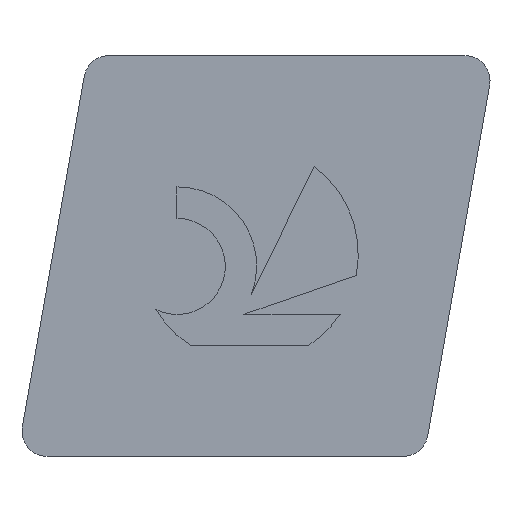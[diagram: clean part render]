
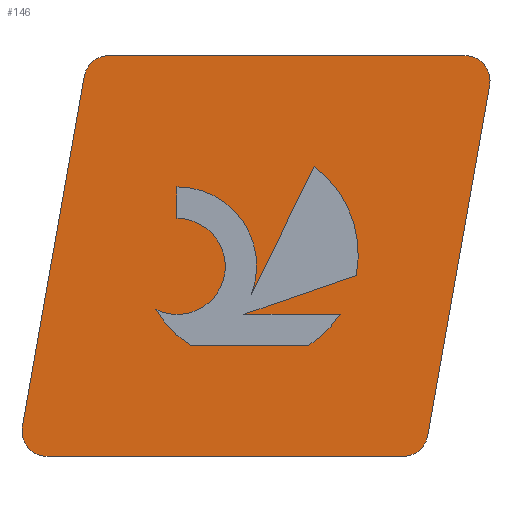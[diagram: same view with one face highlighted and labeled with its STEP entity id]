
A CAD part, top view. The second image highlights one B-rep face of the part: STEP entity #146.
In plain terms, the highlighted planar face has unit normal (0, 0, 1).
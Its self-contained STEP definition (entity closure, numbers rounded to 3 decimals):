
#144=EDGE_CURVE('',#324,#224,#397,.T.);
#146=ADVANCED_FACE('',(#399,#400),#401,.T.);
#148=EDGE_CURVE('',#158,#328,#403,.T.);
#156=VERTEX_POINT('',#412);
#158=VERTEX_POINT('',#414);
#162=EDGE_CURVE('',#304,#342,#418,.T.);
#168=VERTEX_POINT('',#425);
#170=EDGE_CURVE('',#296,#294,#427,.T.);
#176=VERTEX_POINT('',#433);
#186=EDGE_CURVE('',#344,#368,#445,.T.);
#192=EDGE_CURVE('',#338,#362,#451,.T.);
#194=VERTEX_POINT('',#453);
#224=VERTEX_POINT('',#486);
#226=EDGE_CURVE('',#362,#344,#488,.T.);
#228=EDGE_CURVE('',#346,#304,#490,.T.);
#238=EDGE_CURVE('',#336,#346,#502,.T.);
#242=EDGE_CURVE('',#194,#296,#506,.T.);
#244=VERTEX_POINT('',#508);
#258=EDGE_CURVE('',#294,#176,#523,.T.);
#276=EDGE_CURVE('',#156,#158,#543,.T.);
#294=VERTEX_POINT('',#563);
#296=VERTEX_POINT('',#565);
#300=EDGE_CURVE('',#342,#324,#569,.T.);
#304=VERTEX_POINT('',#574);
#320=EDGE_CURVE('',#168,#156,#591,.T.);
#322=EDGE_CURVE('',#328,#194,#593,.T.);
#324=VERTEX_POINT('',#595);
#328=VERTEX_POINT('',#600);
#336=VERTEX_POINT('',#608);
#338=VERTEX_POINT('',#610);
#342=VERTEX_POINT('',#615);
#344=VERTEX_POINT('',#617);
#346=VERTEX_POINT('',#619);
#348=EDGE_CURVE('',#368,#244,#621,.T.);
#350=EDGE_CURVE('',#224,#338,#623,.T.);
#356=EDGE_CURVE('',#244,#336,#630,.T.);
#360=EDGE_CURVE('',#176,#168,#634,.T.);
#362=VERTEX_POINT('',#636);
#368=VERTEX_POINT('',#642);
#397=LINE('',#663,#664);
#399=FACE_BOUND('',#666,.T.);
#400=FACE_OUTER_BOUND('',#667,.T.);
#401=PLANE('',#668);
#403=CIRCLE('',#671,0.397);
#412=CARTESIAN_POINT('',(7.095,6.35,0.0));
#414=CARTESIAN_POINT('',(1.453,6.35,0.0));
#418=LINE('',#691,#692);
#425=CARTESIAN_POINT('',(7.485,5.884,0.0));
#427=LINE('',#704,#705);
#433=CARTESIAN_POINT('',(6.506,0.328,0.0));
#445=LINE('',#732,#733);
#451=CIRCLE('',#744,0.761);
#453=CARTESIAN_POINT('',(0.082,0.466,0.0));
#486=CARTESIAN_POINT('',(2.741,1.76,0.0));
#488=CIRCLE('',#789,0.761);
#490=LINE('',#792,#793);
#502=CIRCLE('',#809,1.724);
#506=CIRCLE('',#816,0.397);
#508=CARTESIAN_POINT('',(3.71,2.568,0.0));
#523=CIRCLE('',#839,0.397);
#543=LINE('',#867,#868);
#563=CARTESIAN_POINT('',(6.115,0.0,0.0));
#565=CARTESIAN_POINT('',(0.473,0.0,0.0));
#569=CIRCLE('',#902,1.724);
#574=CARTESIAN_POINT('',(3.593,2.25,0.0));
#591=CIRCLE('',#932,0.397);
#593=LINE('',#935,#936);
#595=CARTESIAN_POINT('',(4.62,1.76,0.0));
#600=CARTESIAN_POINT('',(1.062,6.022,0.0));
#608=CARTESIAN_POINT('',(4.707,4.59,0.0));
#610=CARTESIAN_POINT('',(2.196,2.329,0.0));
#615=CARTESIAN_POINT('',(5.116,2.25,0.0));
#617=CARTESIAN_POINT('',(2.532,3.77,0.0));
#619=CARTESIAN_POINT('',(5.371,2.868,0.0));
#621=CIRCLE('',#968,1.252);
#623=CIRCLE('',#971,1.724);
#630=LINE('',#979,#980);
#634=LINE('',#985,#986);
#636=CARTESIAN_POINT('',(2.877,3.69,0.0));
#642=CARTESIAN_POINT('',(2.532,4.27,0.0));
#663=CARTESIAN_POINT('',(3.263,1.76,0.0));
#664=VECTOR('',#1023,1.0);
#666=EDGE_LOOP('',(#1025,#1026,#1027,#1028,#1029,#1030,#1031,#1032,#1033,#1034,#1035));
#667=EDGE_LOOP('',(#1036,#1037,#1038,#1039,#1040,#1041,#1042,#1043));
#668=AXIS2_PLACEMENT_3D('',#1044,#1045,#1046);
#671=AXIS2_PLACEMENT_3D('',#1047,#1048,#1049);
#691=CARTESIAN_POINT('',(4.45,2.25,0.0));
#692=VECTOR('',#1060,1.0);
#704=CARTESIAN_POINT('',(0.473,0.0,0.0));
#705=VECTOR('',#1070,1.0);
#732=CARTESIAN_POINT('',(2.532,3.723,0.0));
#733=VECTOR('',#1091,1.0);
#744=AXIS2_PLACEMENT_3D('',#1094,#1095,#1096);
#789=AXIS2_PLACEMENT_3D('',#1131,#1132,#1133);
#792=CARTESIAN_POINT('',(3.822,2.33,0.0));
#793=VECTOR('',#1134,1.0);
#809=AXIS2_PLACEMENT_3D('',#1162,#1163,#1164);
#816=AXIS2_PLACEMENT_3D('',#1166,#1167,#1168);
#839=AXIS2_PLACEMENT_3D('',#1182,#1183,#1184);
#867=CARTESIAN_POINT('',(7.095,6.35,0.0));
#868=VECTOR('',#1207,1.0);
#902=AXIS2_PLACEMENT_3D('',#1230,#1231,#1232);
#932=AXIS2_PLACEMENT_3D('',#1255,#1256,#1257);
#935=CARTESIAN_POINT('',(1.062,6.022,0.0));
#936=VECTOR('',#1258,1.0);
#968=AXIS2_PLACEMENT_3D('',#1279,#1280,#1281);
#971=AXIS2_PLACEMENT_3D('',#1282,#1283,#1284);
#979=CARTESIAN_POINT('',(4.336,3.838,0.0));
#980=VECTOR('',#1293,1.0);
#985=CARTESIAN_POINT('',(6.506,0.328,0.0));
#986=VECTOR('',#1294,1.0);
#1023=DIRECTION('',(-1.0,0.0,0.0));
#1025=ORIENTED_EDGE('',*,*,#186,.T.);
#1026=ORIENTED_EDGE('',*,*,#348,.T.);
#1027=ORIENTED_EDGE('',*,*,#356,.T.);
#1028=ORIENTED_EDGE('',*,*,#238,.T.);
#1029=ORIENTED_EDGE('',*,*,#228,.T.);
#1030=ORIENTED_EDGE('',*,*,#162,.T.);
#1031=ORIENTED_EDGE('',*,*,#300,.T.);
#1032=ORIENTED_EDGE('',*,*,#144,.T.);
#1033=ORIENTED_EDGE('',*,*,#350,.T.);
#1034=ORIENTED_EDGE('',*,*,#192,.T.);
#1035=ORIENTED_EDGE('',*,*,#226,.T.);
#1036=ORIENTED_EDGE('',*,*,#170,.T.);
#1037=ORIENTED_EDGE('',*,*,#258,.T.);
#1038=ORIENTED_EDGE('',*,*,#360,.T.);
#1039=ORIENTED_EDGE('',*,*,#320,.T.);
#1040=ORIENTED_EDGE('',*,*,#276,.T.);
#1041=ORIENTED_EDGE('',*,*,#148,.T.);
#1042=ORIENTED_EDGE('',*,*,#322,.T.);
#1043=ORIENTED_EDGE('',*,*,#242,.T.);
#1044=CARTESIAN_POINT('',(3.784,3.175,0.0));
#1045=DIRECTION('',(0.0,0.0,1.0));
#1046=DIRECTION('',(1.0,0.0,0.0));
#1047=CARTESIAN_POINT('',(1.453,5.953,0.0));
#1048=DIRECTION('',(0.0,0.0,1.0));
#1049=DIRECTION('',(0.,1.0,0.0));
#1060=DIRECTION('',(1.0,0.0,0.0));
#1070=DIRECTION('',(1.0,0.0,0.0));
#1091=DIRECTION('',(0.0,1.0,0.0));
#1094=CARTESIAN_POINT('',(2.537,3.009,0.0));
#1095=DIRECTION('',(0.0,0.0,1.0));
#1096=DIRECTION('',(-0.447,-0.894,0.0));
#1131=CARTESIAN_POINT('',(2.537,3.009,0.0));
#1132=DIRECTION('',(0.0,0.0,1.0));
#1133=DIRECTION('',(-0.447,-0.894,0.0));
#1134=DIRECTION('',(-0.945,-0.328,0.0));
#1162=CARTESIAN_POINT('',(3.681,3.205,0.0));
#1163=DIRECTION('',(0.0,-0.0,-1.0));
#1164=DIRECTION('',(0.981,-0.196,0.0));
#1166=CARTESIAN_POINT('',(0.473,0.397,0.0));
#1167=DIRECTION('',(0.0,0.0,1.0));
#1168=DIRECTION('',(-0.985,0.174,0.0));
#1182=CARTESIAN_POINT('',(6.115,0.397,0.0));
#1183=DIRECTION('',(0.0,0.0,1.0));
#1184=DIRECTION('',(0.,-1.0,0.0));
#1207=DIRECTION('',(-1.0,0.0,0.0));
#1230=CARTESIAN_POINT('',(3.681,3.205,0.0));
#1231=DIRECTION('',(0.0,-0.0,-1.0));
#1232=DIRECTION('',(0.545,-0.838,0.0));
#1255=CARTESIAN_POINT('',(7.095,5.953,0.0));
#1256=DIRECTION('',(-0.0,0.0,1.0));
#1257=DIRECTION('',(0.985,-0.174,0.0));
#1258=DIRECTION('',(-0.174,-0.985,0.0));
#1279=CARTESIAN_POINT('',(2.542,3.018,0.0));
#1280=DIRECTION('',(0.0,-0.0,-1.0));
#1281=DIRECTION('',(0.933,-0.359,0.0));
#1282=CARTESIAN_POINT('',(3.681,3.205,0.0));
#1283=DIRECTION('',(-0.0,0.0,-1.0));
#1284=DIRECTION('',(-0.861,-0.508,0.0));
#1293=DIRECTION('',(0.442,0.897,-0.0));
#1294=DIRECTION('',(0.174,0.985,0.0));
